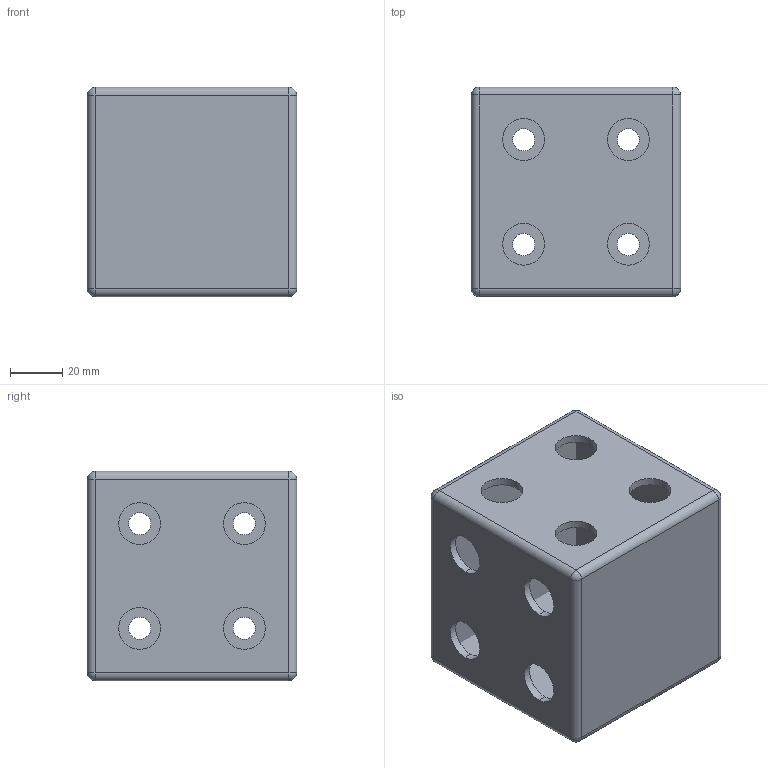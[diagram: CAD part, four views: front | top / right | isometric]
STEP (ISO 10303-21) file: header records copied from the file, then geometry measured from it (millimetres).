
FILE_DESCRIPTION (( 'STEP AP214' ), '1' );
FILE_NAME ('8080-2.STEP', '2020-06-22T06:04:45', ( '' ), ( '' ), 'SwSTEP 2.0', 'SolidWorks 2018', '' );
FILE_SCHEMA (( 'AUTOMOTIVE_DESIGN' ));
Length unit declared in the file: millimetre
Products named in the file (4): 8080-2.03; 8080-2.02; 8080-2.01; 8080-2
Assembly tree (6 placements, depth 2):
  8080-2
    8080-2.01  x2
    8080-2.02  x2
    8080-2.03  x2
Bounding box: 80 x 80 x 80 mm (x, y, z)
Volume: 103388.8 mm3; surface area: 76760.8 mm2
Topology: 6 solids, 6 shells, 96 faces, 252 edges, 144 vertices
Faces by surface type: cylinder 60, sphere 24, plane 12
Entity records: 1628 total; most frequent: DIRECTION 300, CARTESIAN_POINT 243, ORIENTED_EDGE 228, AXIS2_PLACEMENT_3D 129, EDGE_CURVE 114, CIRCLE 72, VERTEX_POINT 72, EDGE_LOOP 66
